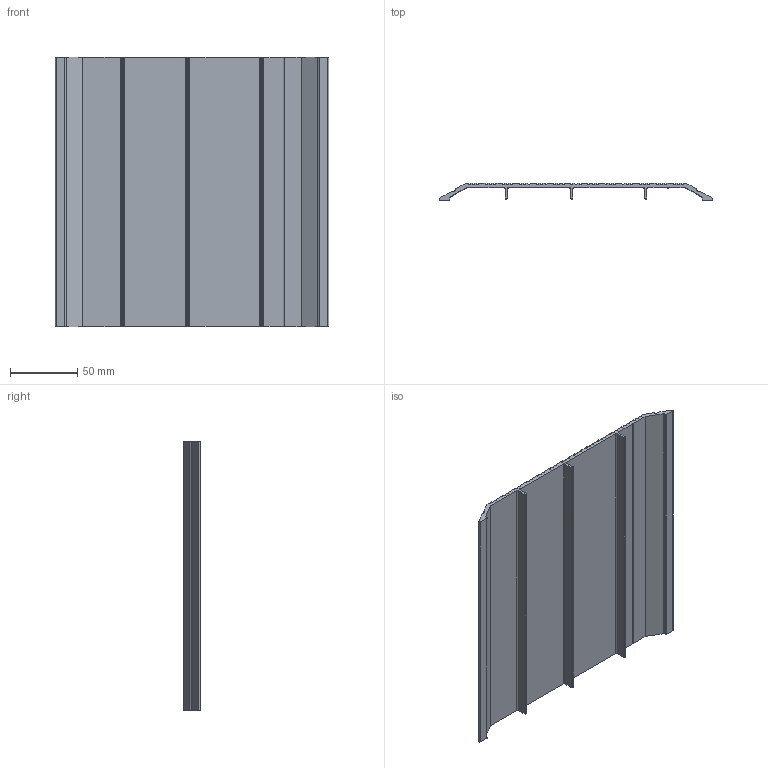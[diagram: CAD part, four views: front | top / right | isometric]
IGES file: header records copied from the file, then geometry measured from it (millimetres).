
Global section: file name: No Iges File Name specified; native system: Autodesk Inventor 2012; preprocessor: AutoDesk Inventor Iges Exporter R2012; author: anna.b; date: 20130614.100934; units: millimetre
Bounding box: 203.2 x 12.5 x 200 mm (x, y, z)
Volume: 126660.3 mm3; surface area: 103025.6 mm2
Topology: 1 solids, 1 shells, 132 faces, 390 edges, 260 vertices
Faces by surface type: plane 67, revolution 51, cylinder 14
